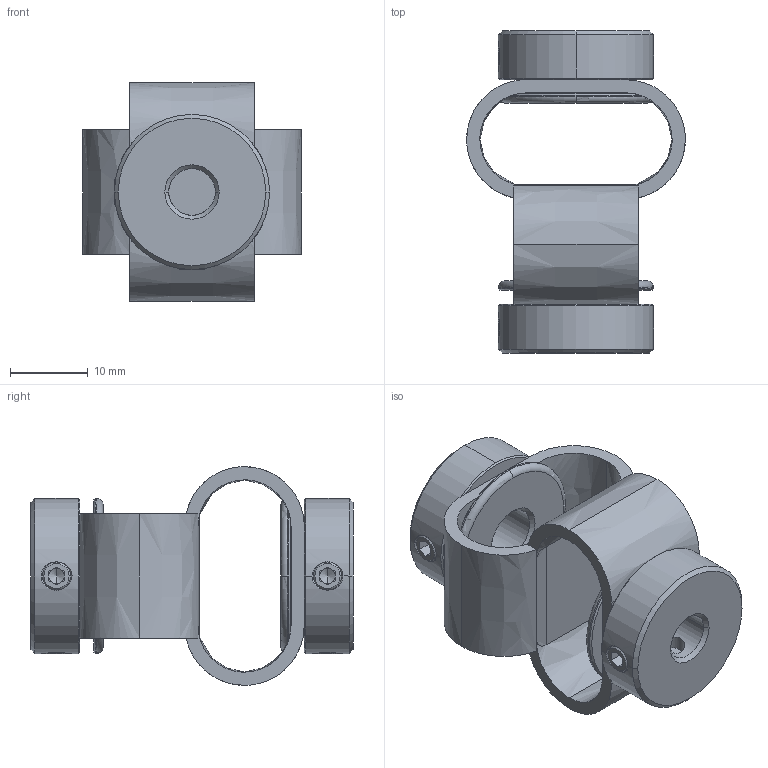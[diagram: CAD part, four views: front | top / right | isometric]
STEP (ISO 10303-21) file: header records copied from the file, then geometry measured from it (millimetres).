
FILE_DESCRIPTION (( 'STEP AP203' ), '1' );
FILE_NAME ('LS-D-D27L40-6-7.STEP', '2021-10-28T06:27:39', ( '' ), ( '' ), 'SwSTEP 2.0', 'SolidWorks 2018', '' );
FILE_SCHEMA (( 'CONFIG_CONTROL_DESIGN' ));
Length unit declared in the file: millimetre
Products named in the file (1): LS-D-D27L40-6-7
Bounding box: 28.2 x 41.54 x 28.2 mm (x, y, z)
Volume: 7221.4 mm3; surface area: 6691.5 mm2
Topology: 1 solids, 1 shells, 190 faces, 490 edges, 306 vertices
Faces by surface type: plane 86, cone 54, cylinder 30, bspline 16, torus 4
Entity records: 7779 total; most frequent: CARTESIAN_POINT 3221, ORIENTED_EDGE 964, DIRECTION 886, EDGE_CURVE 482, AXIS2_PLACEMENT_3D 345, VERTEX_POINT 306, EDGE_LOOP 218, VECTOR 196
